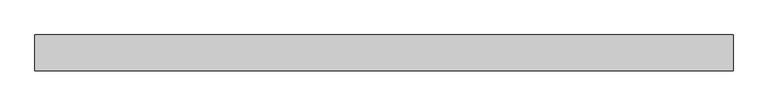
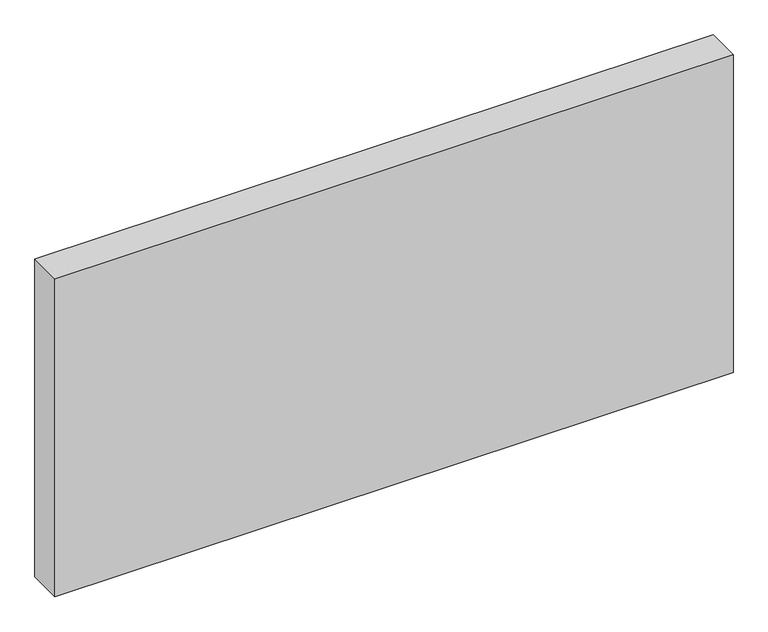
"""IFC4 building model written with IfcOpenShell, lengths in millimetres: plate geometry, Системная панель : Алюкобонд серый."""

from ifc_helpers import new_model, si_unit, origin, origin_with_axes, place, context, project, spatial, polyline, outline, extrude, source, transform, mapped, element, save


def plate_7257bcb5(model_context):
    return source(origin(), model_context, "Body", "SweptSolid", [
        extrude(outline(polyline([(585.0, -10.5), (-585.0, -10.5), (-585.0, 49.5), (585.0, 49.5), (585.0, -10.5)])), origin_with_axes(), (0.0, 0.0, 1.0), 580.0),
    ])


if __name__ == "__main__":
    model = new_model("IFC4")
    model_context = context("Model", 3, world=origin())
    ifc_project = project(units=[si_unit("LENGTHUNIT", "METRE", prefix="MILLI")], contexts=[model_context])
    site = spatial("IfcSite", under=ifc_project)
    building = spatial("IfcBuilding", under=site)
    placement = place(None, origin())
    plate_shape = plate_7257bcb5(model_context)
    element("IfcPlate", 1, ObjectType="Системная панель : Алюкобонд серый", at=placement, inside=building, context=model_context, shape_type="MappedRepresentation", body=[
        mapped(plate_shape, transform((0.0, 0.0, 0.0), x_axis=(1.0, 0.0, 0.0), y_axis=(0.0, 1.0, 0.0), z_axis=(0.0, 0.0, 1.0))),
    ])
    save(model, "model.ifc")
